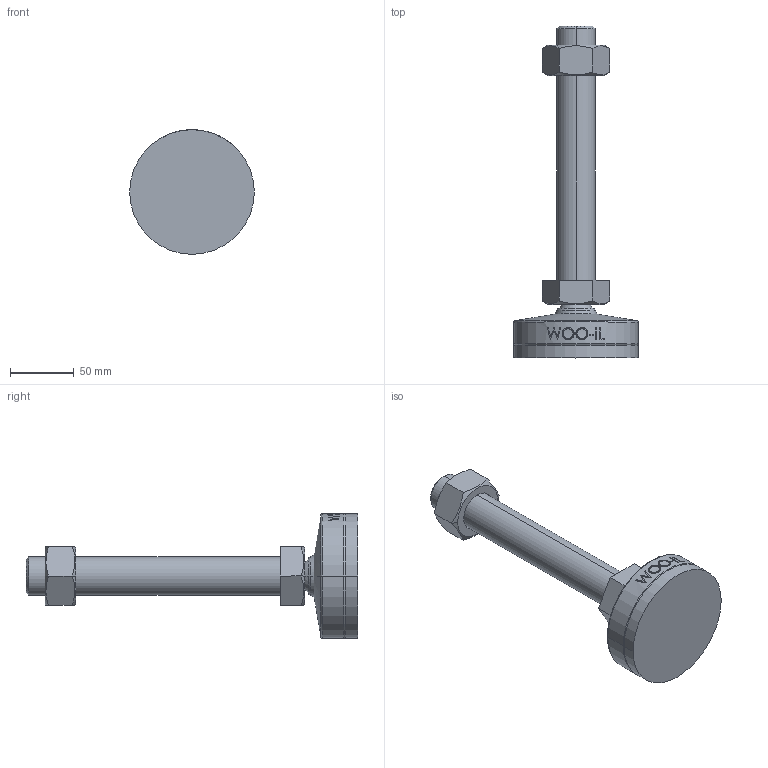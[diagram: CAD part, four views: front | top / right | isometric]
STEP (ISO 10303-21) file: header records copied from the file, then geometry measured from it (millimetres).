
FILE_DESCRIPTION (( 'STEP AP214' ), '1' );
FILE_NAME ('MFNR98-M30-200.step', '2021-02-22T09:09:58', ( '' ), ( '' ), 'SwSTEP 2.0', 'SolidWorks 2019', '' );
FILE_SCHEMA (( 'AUTOMOTIVE_DESIGN' ));
Length unit declared in the file: millimetre
Products named in the file (2): MFNR98-M30-200
Bounding box: 98 x 261 x 98 mm (x, y, z)
Volume: 445590.9 mm3; surface area: 57471 mm2
Topology: 2 solids, 2 shells, 103 faces, 239 edges, 152 vertices
Faces by surface type: plane 47, cone 18, cylinder 16, bspline 16, torus 4, sphere 2
Entity records: 4543 total; most frequent: CARTESIAN_POINT 2264, ORIENTED_EDGE 478, DIRECTION 423, EDGE_CURVE 239, AXIS2_PLACEMENT_3D 161, VERTEX_POINT 152, EDGE_LOOP 117, FACE_OUTER_BOUND 103
